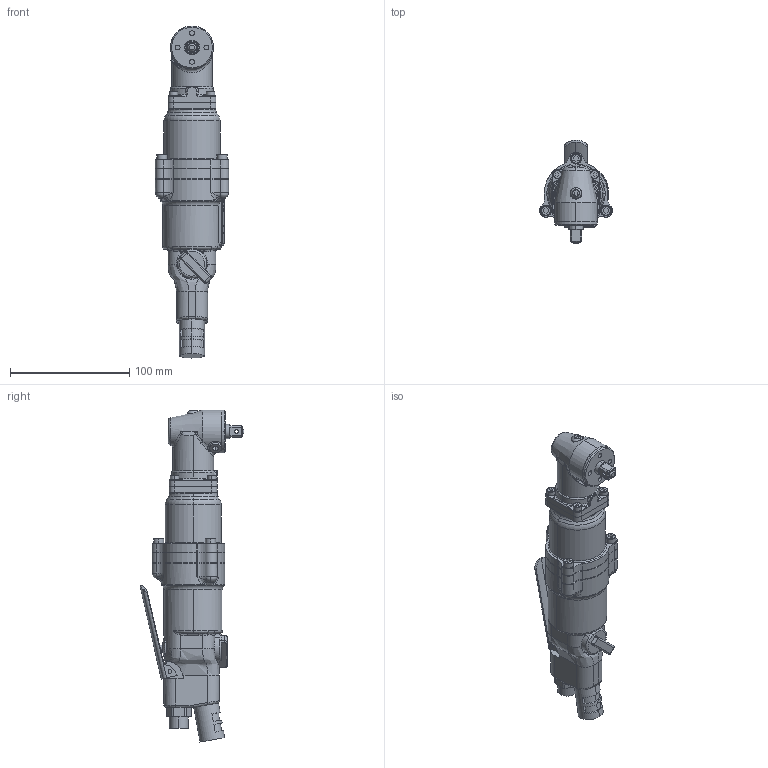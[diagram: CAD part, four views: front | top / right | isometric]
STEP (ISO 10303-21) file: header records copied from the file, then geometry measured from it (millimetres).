
FILE_DESCRIPTION (( 'STEP AP203' ), '1' );
FILE_NAME ('UX-700C.STEP', '2007-04-20T05:56:51', ( ' ' ), ( ' ' ), 'SwSTEP 2.0', 'SolidWorks 2003240', '' );
FILE_SCHEMA (( 'CONFIG_CONTROL_DESIGN' ));
Length unit declared in the file: millimetre
Products named in the file (10): 1794305_UX-700C_蹬怮椔; 1790255_UX-700C_蹬怮椔; 0202121_UX-700C_蹬怮椔; PIN_UX-700C_蹬怮椔; UX-700C; 1794885_UX-700C_蹬怮椔; 1790275_UX-700C_蹬怮椔; 1794415_UX-700C_蹬怮椔; 1794395_UX-700C_蹬怮椔; 5001071_UX-700C_蹬怮椔
Assembly tree (9 placements, depth 2):
  UX-700C
    0202121_UX-700C_蹬怮椔
    5001071_UX-700C_蹬怮椔
    1790255_UX-700C_蹬怮椔
    1790275_UX-700C_蹬怮椔
    1794415_UX-700C_蹬怮椔
    1794885_UX-700C_蹬怮椔
    1794395_UX-700C_蹬怮椔
    1794305_UX-700C_蹬怮椔
    PIN_UX-700C_蹬怮椔
Bounding box: 61.23 x 87.06 x 277.96 mm (x, y, z)
Volume: 414924.4 mm3; surface area: 68633.3 mm2
Topology: 9 solids, 9 shells, 956 faces, 2493 edges, 1583 vertices
Faces by surface type: plane 377, cylinder 336, bspline 152, torus 54, cone 33, sphere 4
Entity records: 71057 total; most frequent: CARTESIAN_POINT 47848, ORIENTED_EDGE 4934, DIRECTION 4242, EDGE_CURVE 2467, AXIS2_PLACEMENT_3D 1600, VERTEX_POINT 1583, VECTOR 1042, LINE 1042
